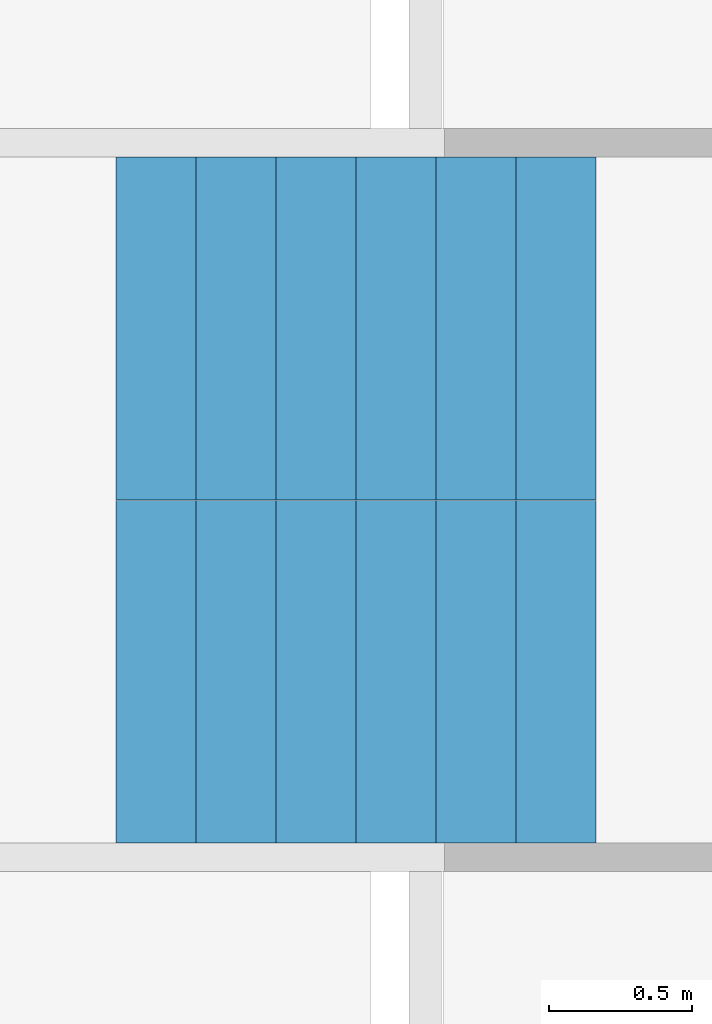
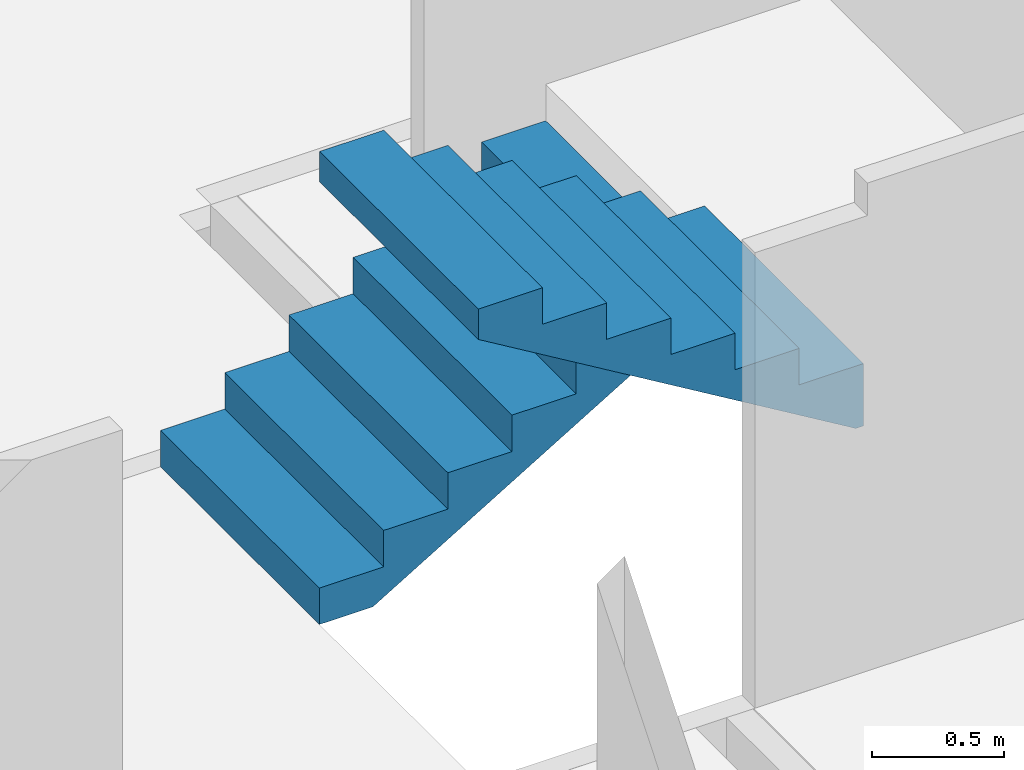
# One storey, part 6 of 6: 2 stair flights, 1 element without a shape of its own.
"""IFC4 building model written with IfcOpenShell, lengths in metres."""

import ifcopenshell
import ifcopenshell.guid

model = None  # the IFC model being written
_history = None  # IfcOwnerHistory: only IFC2X3 demands one
_inside = {}  # id of a spatial element -> (the spatial element, [elements in it])
_under = {}  # id of a project, library or spatial element -> (it, [spatial elements below it])
_declared = {}  # id of a project -> (the project, [libraries it declares])
_typed = {}  # id of a type object -> (the type object, [elements of that type])
_made_of = {}  # id of a material, layer set ... -> (it, [elements and type objects made of it])


def new_model(schema):
    """Start an empty IFC model of exactly this schema.

    Asked for "IFC4X3", IfcOpenShell would pick the latest addendum, in which some entities
    have other attributes; the version numbers below select the first issue.
    IFC2X3 requires an IfcOwnerHistory on every rooted entity: one is made here for all.
    """
    global model, _history
    if schema == "IFC4X3":
        model = ifcopenshell.file(schema_version=(4, 3, 0, 0))
    else:
        model = ifcopenshell.file(schema=schema)
    _inside.clear()
    _under.clear()
    _declared.clear()
    _typed.clear()
    _made_of.clear()
    _history = None
    if model.schema == "IFC2X3":
        org = make("IfcOrganization", Name="unknown")
        user = make(
            "IfcPersonAndOrganization",
            ThePerson=make("IfcPerson", FamilyName="unknown"),
            TheOrganization=org,
        )
        app = make(
            "IfcApplication",
            ApplicationDeveloper=org,
            Version="unknown",
            ApplicationFullName="unknown",
            ApplicationIdentifier="unknown",
        )
        _history = make(
            "IfcOwnerHistory",
            OwningUser=user,
            OwningApplication=app,
            ChangeAction="ADDED",
            CreationDate=0,
        )
    return model


def make(cls, **values):
    """One entity of the class cls with the attributes given. An attribute that is None is left unset."""
    return model.create_entity(
        cls, **{name: value for name, value in values.items() if value is not None}
    )


def entity(cls, *values):
    """Any entity or typed value of the class cls, its attributes in the order of the schema. None: left unset."""
    e = model.create_entity(cls)
    for i, value in enumerate(values):
        if value is not None:
            e[i] = value
    return e


def rooted(cls, **values):
    """An entity with a GlobalId (a new one), such as an element, a storey or a relation."""
    return make(cls, GlobalId=ifcopenshell.guid.new(), OwnerHistory=_history, **values)


def si_unit(unit_type, name, prefix=None):
    """IfcSIUnit, for example si_unit("LENGTHUNIT", "METRE", prefix="MILLI")."""
    return make("IfcSIUnit", UnitType=unit_type, Prefix=prefix, Name=name)


def converted_unit(unit_type, name, factor, base, dimensions=None, offset=None):
    """IfcConversionBasedUnit, such as the inch: factor (a typed value) times the base unit."""
    return make(
        "IfcConversionBasedUnit"
        if offset is None
        else "IfcConversionBasedUnitWithOffset",
        ConversionOffset=offset,
        Dimensions=None
        if dimensions is None
        else entity("IfcDimensionalExponents", *dimensions),
        UnitType=unit_type,
        Name=name,
        ConversionFactor=make(
            "IfcMeasureWithUnit", ValueComponent=factor, UnitComponent=base
        ),
    )


def derived_unit(unit_type, elements):
    """IfcDerivedUnit: a product of units, each with its exponent."""
    return make(
        "IfcDerivedUnit",
        Elements=[
            make("IfcDerivedUnitElement", Unit=unit, Exponent=power)
            for unit, power in elements
        ],
        UnitType=unit_type,
    )


def assignment(units):
    """IfcUnitAssignment: the units of a project."""
    return None if units is None else make("IfcUnitAssignment", Units=units)


def point(xyz):
    """IfcCartesianPoint."""
    return None if xyz is None else make("IfcCartesianPoint", Coordinates=xyz)


def direction(xyz):
    """IfcDirection."""
    return None if xyz is None else make("IfcDirection", DirectionRatios=xyz)


def frame(location, z_axis=None, x_axis=None):
    """IfcAxis2Placement3D, a coordinate frame: its origin and axes. An axis left out is left unset."""
    return make(
        "IfcAxis2Placement3D",
        Location=point(location),
        Axis=direction(z_axis),
        RefDirection=direction(x_axis),
    )


def origin():
    """The frame at (0, 0, 0) with its axes left unset."""
    return frame((0.0, 0.0, 0.0))


def place(relative_to, where):
    """IfcLocalPlacement: puts the frame where relative to a parent placement (None: the world)."""
    return make(
        "IfcLocalPlacement", PlacementRelTo=relative_to, RelativePlacement=where
    )


def context(
    kind, dimensions, precision=None, world=None, true_north=None, identifier=None
):
    """IfcGeometricRepresentationContext, for example the 3D "Model" context."""
    return make(
        "IfcGeometricRepresentationContext",
        ContextIdentifier=identifier,
        ContextType=kind,
        CoordinateSpaceDimension=dimensions,
        Precision=precision,
        WorldCoordinateSystem=world,
        TrueNorth=true_north,
    )


def subcontext(parent, identifier, kind, view, scale=None):
    """IfcGeometricRepresentationSubContext, for example "Body" below "Model"."""
    return make(
        "IfcGeometricRepresentationSubContext",
        ContextIdentifier=identifier,
        ContextType=kind,
        ParentContext=parent,
        TargetScale=scale,
        TargetView=view,
    )


def project(units=None, contexts=None):
    """IfcProject with its units and contexts."""
    return rooted(
        "IfcProject",
        Name="project",
        RepresentationContexts=contexts,
        UnitsInContext=assignment(units),
    )


def spatial(cls, under=None, at=None, **own):
    """A site, building, storey or space (cls), placed at a placement, below another one or the project."""
    s = rooted(cls, ObjectPlacement=at, **own)
    if under is not None:
        _under.setdefault(under.id(), (under, []))[1].append(s)
    return s


def point_list(points):
    """IfcCartesianPointList2D or 3D."""
    cls = (
        "IfcCartesianPointList2D" if len(points[0]) == 2 else "IfcCartesianPointList3D"
    )
    return make(cls, CoordList=points)


def polygons(points, faces, closed=None, point_numbers=None):
    """IfcPolygonalFaceSet: a face is its outer loop, then its inner loops; points numbered from 1."""
    made = []
    for loops in faces:
        if len(loops) == 1:
            made.append(make("IfcIndexedPolygonalFace", CoordIndex=loops[0]))
        else:
            made.append(
                make(
                    "IfcIndexedPolygonalFaceWithVoids",
                    CoordIndex=loops[0],
                    InnerCoordIndices=loops[1:],
                )
            )
    return make(
        "IfcPolygonalFaceSet",
        Coordinates=point_list(points),
        Closed=closed,
        Faces=made,
        PnIndex=point_numbers,
    )


def shape(context_of_items, identifier, shape_type, items):
    """IfcShapeRepresentation: the items that make up one representation, for example the "Body"."""
    return make(
        "IfcShapeRepresentation",
        ContextOfItems=context_of_items,
        RepresentationIdentifier=identifier,
        RepresentationType=shape_type,
        Items=items,
    )


def material(Name=None, Category=None):
    """IfcMaterial."""
    return make("IfcMaterial", Name=Name, Category=Category)


def made_of(thing, what):
    """Note that an element or type object is made of a material, layer set ...; save() writes the relation."""
    if what is not None:
        _made_of.setdefault(what.id(), (what, []))[1].append(thing)
    return thing


def type_object(cls, material=None, **own):
    """A type object (cls), such as IfcWallType, which elements share."""
    return made_of(rooted(cls, **own), material)


def element(
    cls,
    number,
    at=None,
    inside=None,
    cuts=None,
    type_object=None,
    material=None,
    context=None,
    identifier="Body",
    shape_type=None,
    held_by="IfcProductDefinitionShape",
    body=None,
    shapes=None,
    **own,
):
    """One element of the class cls, such as IfcWall. Its Tag is "e" and its number.

    at: its placement. inside: the storey or other place that contains it. cuts: it is an
    opening in that element (IfcRelVoidsElement). A single representation is given by context,
    identifier, shape_type and body (its items); several are given by shapes. held_by: the class
    of the entity that holds the representations. save() writes the other relations.
    """
    e = rooted(cls, Tag="e%d" % number, ObjectPlacement=at, **own)
    if body is not None:
        shapes = [shape(context, identifier, shape_type, body)]
    if shapes is not None:
        e.Representation = make(held_by, Representations=shapes)
    if inside is not None:
        _inside.setdefault(inside.id(), (inside, []))[1].append(e)
    if cuts is not None:
        rooted(
            "IfcRelVoidsElement", RelatingBuildingElement=cuts, RelatedOpeningElement=e
        )
    if type_object is not None:
        _typed.setdefault(type_object.id(), (type_object, []))[1].append(e)
    return made_of(e, material)


def aggregate(whole, parts):
    """IfcRelAggregates: a whole, such as a stair, and the parts it consists of."""
    return rooted("IfcRelAggregates", RelatingObject=whole, RelatedObjects=parts)


def save(model, path):
    """Write the relations noted so far, then the file.

    IfcRelAggregates (storeys below a building ...), IfcRelContainedInSpatialStructure (elements
    in a storey), IfcRelDefinesByType, IfcRelAssociatesMaterial and IfcRelDeclares: one each for
    every whole, place, type object, material and project.
    """
    for whole, parts in _under.values():
        aggregate(whole, parts)
    for where, things in _inside.values():
        rooted(
            "IfcRelContainedInSpatialStructure",
            RelatedElements=things,
            RelatingStructure=where,
        )
    for kind, things in _typed.values():
        rooted("IfcRelDefinesByType", RelatedObjects=things, RelatingType=kind)
    for what, things in _made_of.values():
        rooted("IfcRelAssociatesMaterial", RelatedObjects=things, RelatingMaterial=what)
    for by, libraries in _declared.values():
        rooted("IfcRelDeclares", RelatingContext=by, RelatedDefinitions=libraries)
    model.write(path)


model = new_model("IFC4")

# Units and contexts
model_context = context("Model", 3, precision=1e-05, world=origin(), true_north=direction((6.123031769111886e-17, 1.0)))
body_context = subcontext(model_context, "Body", "Model", "MODEL_VIEW")
ifc_project = project(units=[si_unit("LENGTHUNIT", "METRE"), si_unit("AREAUNIT", "SQUARE_METRE"), si_unit("VOLUMEUNIT", "CUBIC_METRE"), converted_unit("PLANEANGLEUNIT", "DEGREE", entity("IfcRatioMeasure", 0.017453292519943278), si_unit("PLANEANGLEUNIT", "RADIAN"), dimensions=[0, 0, 0, 0, 0, 0, 0]), si_unit("MASSUNIT", "GRAM", prefix="KILO"), derived_unit("MASSDENSITYUNIT", [(si_unit("MASSUNIT", "GRAM", prefix="KILO"), 1), (si_unit("LENGTHUNIT", "METRE"), -3)]), derived_unit("IONCONCENTRATIONUNIT", [(si_unit("MASSUNIT", "GRAM", prefix="KILO"), 1), (si_unit("LENGTHUNIT", "METRE"), -3)]), derived_unit("MOMENTOFINERTIAUNIT", [(si_unit("LENGTHUNIT", "METRE"), 4)]), si_unit("TIMEUNIT", "SECOND"), si_unit("FREQUENCYUNIT", "HERTZ"), si_unit("THERMODYNAMICTEMPERATUREUNIT", "DEGREE_CELSIUS"), derived_unit("THERMALTRANSMITTANCEUNIT", [(si_unit("MASSUNIT", "GRAM", prefix="KILO"), 1), (si_unit("THERMODYNAMICTEMPERATUREUNIT", "KELVIN"), -1), (si_unit("TIMEUNIT", "SECOND"), -3)]), derived_unit("THERMALCONDUCTANCEUNIT", [(si_unit("MASSUNIT", "GRAM", prefix="KILO"), 1), (si_unit("THERMODYNAMICTEMPERATUREUNIT", "KELVIN"), -1), (si_unit("TIMEUNIT", "SECOND"), -3), (si_unit("LENGTHUNIT", "METRE"), 1)]), derived_unit("VOLUMETRICFLOWRATEUNIT", [(si_unit("LENGTHUNIT", "METRE"), 3), (si_unit("TIMEUNIT", "SECOND"), -1)]), derived_unit("MASSFLOWRATEUNIT", [(si_unit("MASSUNIT", "GRAM", prefix="KILO"), 1), (si_unit("TIMEUNIT", "SECOND"), -1)]), derived_unit("ROTATIONALFREQUENCYUNIT", [(si_unit("TIMEUNIT", "SECOND"), -1)]), si_unit("ELECTRICCURRENTUNIT", "AMPERE"), si_unit("ELECTRICVOLTAGEUNIT", "VOLT"), si_unit("POWERUNIT", "WATT"), si_unit("FORCEUNIT", "NEWTON", prefix="KILO"), si_unit("ILLUMINANCEUNIT", "LUX"), si_unit("LUMINOUSFLUXUNIT", "LUMEN"), si_unit("LUMINOUSINTENSITYUNIT", "CANDELA"), derived_unit("USERDEFINED", [(si_unit("MASSUNIT", "GRAM", prefix="KILO"), -1), (si_unit("LENGTHUNIT", "METRE"), -2), (si_unit("TIMEUNIT", "SECOND"), 3), (si_unit("LUMINOUSFLUXUNIT", "LUMEN"), 1)]), derived_unit("USERDEFINED", [(si_unit("MASSUNIT", "GRAM", prefix="KILO"), 1), (si_unit("TIMEUNIT", "SECOND"), -3), (si_unit("LENGTHUNIT", "METRE"), 3), (si_unit("ELECTRICCURRENTUNIT", "AMPERE"), -2)]), derived_unit("SOUNDPOWERUNIT", [(si_unit("MASSUNIT", "GRAM", prefix="KILO"), 1), (si_unit("TIMEUNIT", "SECOND"), -3), (si_unit("LENGTHUNIT", "METRE"), 2)]), derived_unit("SOUNDPRESSUREUNIT", [(si_unit("MASSUNIT", "GRAM", prefix="KILO"), 1), (si_unit("LENGTHUNIT", "METRE"), -1), (si_unit("TIMEUNIT", "SECOND"), -2)]), derived_unit("LINEARVELOCITYUNIT", [(si_unit("LENGTHUNIT", "METRE"), 1), (si_unit("TIMEUNIT", "SECOND"), -1)]), si_unit("PRESSUREUNIT", "PASCAL"), derived_unit("USERDEFINED", [(si_unit("MASSUNIT", "GRAM", prefix="KILO"), 1), (si_unit("LENGTHUNIT", "METRE"), -2), (si_unit("TIMEUNIT", "SECOND"), -2)]), derived_unit("LINEARFORCEUNIT", [(si_unit("MASSUNIT", "GRAM", prefix="KILO"), 1), (si_unit("TIMEUNIT", "SECOND"), -2)]), derived_unit("PLANARFORCEUNIT", [(si_unit("MASSUNIT", "GRAM", prefix="KILO"), 1), (si_unit("LENGTHUNIT", "METRE"), -1), (si_unit("TIMEUNIT", "SECOND"), -2)]), derived_unit("SPECIFICHEATCAPACITYUNIT", [(si_unit("THERMODYNAMICTEMPERATUREUNIT", "KELVIN"), -1), (si_unit("LENGTHUNIT", "METRE"), 2), (si_unit("TIMEUNIT", "SECOND"), -2)]), derived_unit("HEATINGVALUEUNIT", [(si_unit("LENGTHUNIT", "METRE"), 2), (si_unit("TIMEUNIT", "SECOND"), -2)]), derived_unit("VAPORPERMEABILITYUNIT", [(si_unit("LENGTHUNIT", "METRE"), -1), (si_unit("TIMEUNIT", "SECOND"), 1)]), derived_unit("DYNAMICVISCOSITYUNIT", [(si_unit("MASSUNIT", "GRAM", prefix="KILO"), 1), (si_unit("TIMEUNIT", "SECOND"), -1), (si_unit("LENGTHUNIT", "METRE"), -1)]), derived_unit("THERMALEXPANSIONCOEFFICIENTUNIT", [(si_unit("THERMODYNAMICTEMPERATUREUNIT", "KELVIN"), -1)]), derived_unit("MODULUSOFELASTICITYUNIT", [(si_unit("MASSUNIT", "GRAM", prefix="KILO"), 1), (si_unit("LENGTHUNIT", "METRE"), -1), (si_unit("TIMEUNIT", "SECOND"), -2)]), derived_unit("ISOTHERMALMOISTURECAPACITYUNIT", [(si_unit("LENGTHUNIT", "METRE"), 3), (si_unit("MASSUNIT", "GRAM", prefix="KILO"), -1)]), derived_unit("MOISTUREDIFFUSIVITYUNIT", [(si_unit("TIMEUNIT", "SECOND"), -1), (si_unit("LENGTHUNIT", "METRE"), 2)])], contexts=[model_context])

# Site, building, storey
site_placement = place(None, origin())
site = spatial("IfcSite", under=ifc_project, at=site_placement, Name="Default", CompositionType="ELEMENT")
building_placement = place(site_placement, origin())
building = spatial("IfcBuilding", under=site, at=building_placement, Name="Las nubes", CompositionType="ELEMENT")
storey_placement = place(building_placement, frame((0.0, 0.0, 9.400000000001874)))
storey = spatial("IfcBuildingStorey", under=building, at=storey_placement, Name="PISO 5", CompositionType="ELEMENT", Elevation=9.400000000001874)

# Stair, stair flights
stair_type = type_object("IfcStairType", Name="Cast-In-Place Stair:B1080_Escalera Monolitica en Concreto", PredefinedType="HALF_TURN_STAIR")
stair_placement = place(storey_placement, origin())
stair = element("IfcStair", 1, at=stair_placement, inside=storey, type_object=stair_type, Name="Cast-In-Place Stair:Stair", ObjectType="Cast-In-Place Stair:B1080_Escalera Monolitica en Concreto", PredefinedType="HALF_TURN_STAIR")
ifc_material = material(Name="Concrete, Cast In Situ", Category="Materials")
stair_flight_type = type_object("IfcStairFlightType", Name="Monolithic Run:120mm Depth", PredefinedType="STRAIGHT")
stair_flight_1_placement = place(stair_placement, frame((9.552500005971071, -6.4250000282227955, 0.0)))
stair_flight_1 = element("IfcStairFlight", 2, at=stair_flight_1_placement, type_object=stair_flight_type, material=ifc_material, Name="Cast-In-Place Stair:Stair:524192 Run 1", ObjectType="Monolithic Run:120mm Depth", PredefinedType="STRAIGHT", context=body_context, shape_type="Tessellation", body=[
    polygons([(0.27999999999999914, 1.2000000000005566, 0.16785714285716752), (-1.0828671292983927e-15, 1.2000000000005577, 0.16785714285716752), (-1.0828671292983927e-15, 5.4143356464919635e-15, 0.16785714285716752), (0.279999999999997, 4.331468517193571e-15, 0.16785714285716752), (0.27999999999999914, 1.2000000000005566, 0.027945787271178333), (0.23338404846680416, 1.2000000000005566, -1.0828671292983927e-15), (-1.0828671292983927e-15, 1.2000000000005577, 0.0), (-1.0828671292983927e-15, 5.4143356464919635e-15, 0.0), (0.23338404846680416, 4.331468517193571e-15, -1.0828671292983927e-15), (0.279999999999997, 4.331468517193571e-15, 0.027945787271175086), (0.5599999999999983, 1.2000000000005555, 0.33571428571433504), (0.279999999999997, 1.2000000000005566, 0.33571428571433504), (0.279999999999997, 4.331468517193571e-15, 0.33571428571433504), (0.5599999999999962, 3.2486013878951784e-15, 0.33571428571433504), (0.5599999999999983, 1.2000000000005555, 0.19580293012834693), (0.559999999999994, 3.2486013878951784e-15, 0.19580293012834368), (0.8399999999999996, 1.2000000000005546, 0.5035714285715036), (0.5599999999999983, 1.2000000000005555, 0.5035714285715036), (0.5599999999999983, 3.2486013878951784e-15, 0.5035714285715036), (0.8399999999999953, 2.1657342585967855e-15, 0.5035714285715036), (0.8399999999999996, 1.2000000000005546, 0.36366007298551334), (0.8399999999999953, 3.2486013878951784e-15, 0.3636600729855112), (1.1199999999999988, 1.2000000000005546, 0.6714285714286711), (0.8399999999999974, 1.2000000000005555, 0.6714285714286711), (0.8399999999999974, 3.2486013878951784e-15, 0.6714285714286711), (1.1199999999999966, 2.1657342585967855e-15, 0.6714285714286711), (1.120000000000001, 1.2000000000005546, 0.531517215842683), (1.1199999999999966, 2.1657342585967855e-15, 0.5315172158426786), (1.399999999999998, 1.2000000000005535, 0.8392857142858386), (1.1199999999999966, 1.2000000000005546, 0.8392857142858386), (1.1199999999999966, 2.1657342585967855e-15, 0.8392857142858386), (1.3999999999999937, 1.0828671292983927e-15, 0.8392857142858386), (1.399999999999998, 1.2000000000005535, 0.6993743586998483), (1.3999999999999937, 1.0828671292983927e-15, 0.699374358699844), (1.6799999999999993, 1.2000000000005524, 1.007142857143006), (1.3999999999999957, 1.2000000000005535, 1.007142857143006), (1.3999999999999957, 1.0828671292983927e-15, 1.007142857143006), (1.6799999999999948, 0.0, 1.007142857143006), (1.6799999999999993, 1.2000000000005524, 0.8672315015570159), (1.6799999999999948, 0.0, 0.8672315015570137)], [[[1, 2, 3, 4]], [[2, 1, 5, 6, 7]], [[3, 2, 7, 8]], [[4, 3, 8, 9, 10]], [[11, 12, 13, 14]], [[12, 11, 15, 5, 1]], [[1, 4, 13, 12]], [[14, 13, 4, 10, 16]], [[17, 18, 19, 20]], [[18, 17, 21, 15, 11]], [[11, 14, 19, 18]], [[20, 19, 14, 16, 22]], [[23, 24, 25, 26]], [[24, 23, 27, 21, 17]], [[17, 20, 25, 24]], [[26, 25, 20, 22, 28]], [[29, 30, 31, 32]], [[30, 29, 33, 27, 23]], [[23, 26, 31, 30]], [[32, 31, 26, 28, 34]], [[35, 36, 37, 38]], [[36, 35, 39, 33, 29]], [[29, 32, 37, 36]], [[38, 37, 32, 34, 40]], [[35, 38, 40, 39]], [[8, 7, 6, 9]], [[9, 6, 5, 15, 21, 27, 33, 39, 40, 34, 28, 22, 16, 10]]], closed=True),
])
stair_flight_2_placement = place(stair_placement, frame((9.55250000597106, -7.625000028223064, 0.0)))
stair_flight_2 = element("IfcStairFlight", 3, at=stair_flight_2_placement, type_object=stair_flight_type, material=ifc_material, Name="Cast-In-Place Stair:Stair:524192 Run 2", ObjectType="Monolithic Run:120mm Depth", PredefinedType="STRAIGHT", context=body_context, shape_type="Tessellation", body=[
    polygons([(1.6800000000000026, 0.0, 1.342857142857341), (1.6800000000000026, 1.1990000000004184, 1.342857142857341), (1.6467861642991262, 1.1990000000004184, 1.342857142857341), (1.4000000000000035, 1.1990000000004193, 1.342857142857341), (1.4000000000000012, 1.0828671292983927e-15, 1.342857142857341), (1.6467861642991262, 0.0, 1.342857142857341), (1.4000000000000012, 1.0828671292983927e-15, 1.202945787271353), (1.6467861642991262, 0.0, 1.055000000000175), (1.6800000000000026, 0.0, 1.0550000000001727), (1.6800000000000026, 0.0, 1.1750000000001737), (1.6800000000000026, 1.1990000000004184, 1.0550000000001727), (1.6467861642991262, 1.1990000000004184, 1.055000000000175), (1.4000000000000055, 1.1990000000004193, 1.202945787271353), (1.120000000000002, 2.1657342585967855e-15, 1.5107142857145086), (1.4000000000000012, 1.0828671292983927e-15, 1.5107142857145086), (1.4000000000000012, 1.1990000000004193, 1.5107142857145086), (1.120000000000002, 1.1990000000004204, 1.5107142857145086), (1.1199999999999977, 1.0828671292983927e-15, 1.3708029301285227), (1.120000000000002, 1.1990000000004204, 1.3708029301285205), (0.8400000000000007, 2.1657342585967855e-15, 1.6785714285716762), (1.120000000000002, 1.0828671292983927e-15, 1.6785714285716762), (1.120000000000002, 1.1990000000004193, 1.6785714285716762), (0.8400000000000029, 1.1990000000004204, 1.6785714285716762), (0.8400000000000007, 1.0828671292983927e-15, 1.5386600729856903), (0.8400000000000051, 1.1990000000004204, 1.538660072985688), (0.5599999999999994, 3.2486013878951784e-15, 1.8464285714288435), (0.8400000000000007, 1.0828671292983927e-15, 1.8464285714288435), (0.8400000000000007, 1.1990000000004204, 1.8464285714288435), (0.5600000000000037, 1.1990000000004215, 1.8464285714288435), (0.5599999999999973, 3.2486013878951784e-15, 1.7065172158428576), (0.5600000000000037, 1.1990000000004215, 1.7065172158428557), (0.2800000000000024, 4.331468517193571e-15, 2.0142857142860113), (0.5600000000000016, 3.2486013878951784e-15, 2.0142857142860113), (0.5600000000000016, 1.1990000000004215, 2.0142857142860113), (0.2800000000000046, 1.1990000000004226, 2.0142857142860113), (0.2799999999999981, 4.331468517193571e-15, 1.8743743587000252), (0.2800000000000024, 1.1990000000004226, 1.874374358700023), (4.331468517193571e-15, 5.4143356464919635e-15, 2.1821428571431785), (0.2800000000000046, 4.331468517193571e-15, 2.1821428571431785), (0.2800000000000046, 1.1990000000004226, 2.1821428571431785), (6.497202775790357e-15, 1.1990000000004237, 2.1821428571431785), (2.1657342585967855e-15, 5.4143356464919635e-15, 2.0422315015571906), (6.497202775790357e-15, 1.1990000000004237, 2.0422315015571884)], [[[1, 2, 3, 4, 5, 6]], [[5, 7, 8, 9, 10, 1, 6]], [[2, 1, 10, 9, 11]], [[2, 11, 12, 13, 4, 3]], [[14, 15, 16, 17]], [[15, 14, 18, 7, 5]], [[16, 15, 5, 4]], [[17, 16, 4, 13, 19]], [[20, 21, 22, 23]], [[21, 20, 24, 18, 14]], [[22, 21, 14, 17]], [[23, 22, 17, 19, 25]], [[26, 27, 28, 29]], [[27, 26, 30, 24, 20]], [[28, 27, 20, 23]], [[29, 28, 23, 25, 31]], [[32, 33, 34, 35]], [[33, 32, 36, 30, 26]], [[34, 33, 26, 29]], [[35, 34, 29, 31, 37]], [[38, 39, 40, 41]], [[39, 38, 42, 36, 32]], [[40, 39, 32, 35]], [[41, 40, 35, 37, 43]], [[38, 41, 43, 42]], [[12, 8, 7, 18, 24, 30, 36, 42, 43, 37, 31, 25, 19, 13]], [[8, 12, 11, 9]]], closed=True),
])
aggregate(stair, [stair_flight_1, stair_flight_2])

save(model, "model.ifc")
